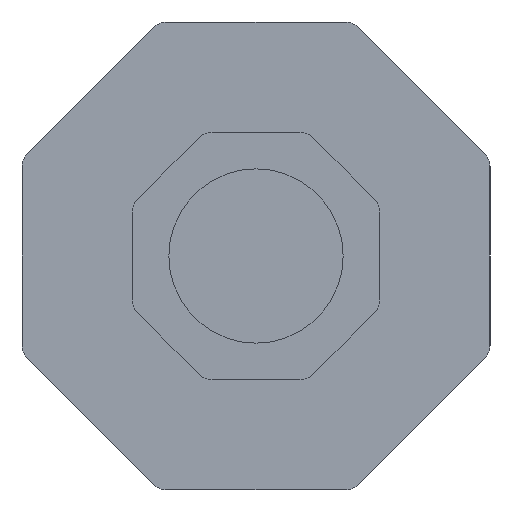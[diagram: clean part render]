
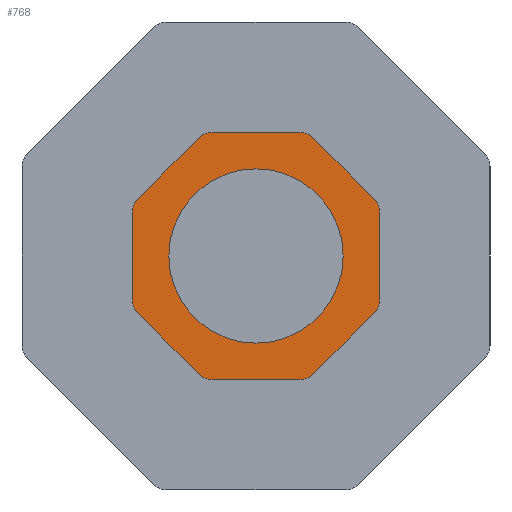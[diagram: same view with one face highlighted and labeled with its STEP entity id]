
A CAD part, left-side view. The second image highlights one B-rep face of the part: STEP entity #768.
In plain terms, the highlighted planar face has unit normal (-1, 0, 0).
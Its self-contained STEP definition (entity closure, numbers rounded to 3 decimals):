
#768=ADVANCED_FACE('',(#1657,#1659),#1661,.T.);
#1657=FACE_BOUND('',#1658,.T.);
#1658=EDGE_LOOP('',(#2395,#2396,#2397,#2398,#2399,#2400,#2401,#2402,#2403,#2404,
#2405,#2406,#2407,#2408,#2409,#2410));
#1659=FACE_BOUND('',#1660,.T.);
#1660=EDGE_LOOP('',(#2411));
#1661=PLANE('',#1662);
#1662=AXIS2_PLACEMENT_3D('',#1663,#1664,#1665);
#1663=CARTESIAN_POINT('',(3127.41,1368.332,0.));
#1664=DIRECTION('',(-1.,0.,0.));
#1665=DIRECTION('',(0.,0.,1.));
#2395=ORIENTED_EDGE('',*,*,#2803,.F.);
#2396=ORIENTED_EDGE('',*,*,#2808,.T.);
#2397=ORIENTED_EDGE('',*,*,#2809,.F.);
#2398=ORIENTED_EDGE('',*,*,#2810,.T.);
#2399=ORIENTED_EDGE('',*,*,#2811,.F.);
#2400=ORIENTED_EDGE('',*,*,#2812,.T.);
#2401=ORIENTED_EDGE('',*,*,#2813,.F.);
#2402=ORIENTED_EDGE('',*,*,#2814,.T.);
#2403=ORIENTED_EDGE('',*,*,#2815,.F.);
#2404=ORIENTED_EDGE('',*,*,#2816,.T.);
#2405=ORIENTED_EDGE('',*,*,#2817,.F.);
#2406=ORIENTED_EDGE('',*,*,#2818,.T.);
#2407=ORIENTED_EDGE('',*,*,#2819,.F.);
#2408=ORIENTED_EDGE('',*,*,#2820,.T.);
#2409=ORIENTED_EDGE('',*,*,#2821,.F.);
#2410=ORIENTED_EDGE('',*,*,#2806,.T.);
#2411=ORIENTED_EDGE('',*,*,#2822,.T.);
#2803=EDGE_CURVE('',#3294,#3295,#3296,.T.);
#2806=EDGE_CURVE('',#3299,#3295,#3300,.T.);
#2808=EDGE_CURVE('',#3294,#3302,#3303,.T.);
#2809=EDGE_CURVE('',#3304,#3302,#3305,.T.);
#2810=EDGE_CURVE('',#3304,#3306,#3307,.T.);
#2811=EDGE_CURVE('',#3308,#3306,#3309,.T.);
#2812=EDGE_CURVE('',#3308,#3310,#3311,.T.);
#2813=EDGE_CURVE('',#3312,#3310,#3313,.T.);
#2814=EDGE_CURVE('',#3312,#3314,#3315,.T.);
#2815=EDGE_CURVE('',#3316,#3314,#3317,.T.);
#2816=EDGE_CURVE('',#3316,#3318,#3319,.T.);
#2817=EDGE_CURVE('',#3320,#3318,#3321,.T.);
#2818=EDGE_CURVE('',#3320,#3322,#3323,.T.);
#2819=EDGE_CURVE('',#3324,#3322,#3325,.T.);
#2820=EDGE_CURVE('',#3324,#3326,#3327,.T.);
#2821=EDGE_CURVE('',#3299,#3326,#3328,.T.);
#2822=EDGE_CURVE('',#3329,#3329,#3330,.T.);
#3294=VERTEX_POINT('',#4433);
#3295=VERTEX_POINT('',#4434);
#3296=CIRCLE('',#4435,2.);
#3299=VERTEX_POINT('',#4445);
#3300=LINE('',#4446,#4447);
#3302=VERTEX_POINT('',#4452);
#3303=LINE('',#4453,#4454);
#3304=VERTEX_POINT('',#4456);
#3305=CIRCLE('',#4457,2.);
#3306=VERTEX_POINT('',#4461);
#3307=LINE('',#4462,#4463);
#3308=VERTEX_POINT('',#4465);
#3309=CIRCLE('',#4466,2.);
#3310=VERTEX_POINT('',#4470);
#3311=LINE('',#4471,#4472);
#3312=VERTEX_POINT('',#4474);
#3313=CIRCLE('',#4475,2.);
#3314=VERTEX_POINT('',#4479);
#3315=LINE('',#4480,#4481);
#3316=VERTEX_POINT('',#4483);
#3317=CIRCLE('',#4484,2.);
#3318=VERTEX_POINT('',#4488);
#3319=LINE('',#4489,#4490);
#3320=VERTEX_POINT('',#4492);
#3321=CIRCLE('',#4493,2.);
#3322=VERTEX_POINT('',#4497);
#3323=LINE('',#4498,#4499);
#3324=VERTEX_POINT('',#4501);
#3325=CIRCLE('',#4502,2.);
#3326=VERTEX_POINT('',#4506);
#3327=LINE('',#4507,#4508);
#3328=CIRCLE('',#4510,2.);
#3329=VERTEX_POINT('',#4514);
#3330=CIRCLE('',#4515,9.5);
#4433=CARTESIAN_POINT('',(3127.41,1363.569,13.5));
#4434=CARTESIAN_POINT('',(3127.41,1362.155,12.914));
#4435=AXIS2_PLACEMENT_3D('',#4436,#4437,#4438);
#4436=CARTESIAN_POINT('',(3127.41,1363.569,11.5));
#4437=DIRECTION('',(1.,0.,0.));
#4438=DIRECTION('',(0.,0.,1.));
#4445=CARTESIAN_POINT('',(3127.41,1355.418,6.178));
#4446=CARTESIAN_POINT('',(3127.41,1355.418,6.178));
#4447=VECTOR('',#4448,1.);
#4448=DIRECTION('',(0.,0.707,0.707));
#4452=CARTESIAN_POINT('',(3127.41,1373.096,13.5));
#4453=CARTESIAN_POINT('',(3127.41,1363.569,13.5));
#4454=VECTOR('',#4455,1.);
#4455=DIRECTION('',(0.,1.,0.));
#4456=CARTESIAN_POINT('',(3127.41,1374.51,12.914));
#4457=AXIS2_PLACEMENT_3D('',#4458,#4459,#4460);
#4458=CARTESIAN_POINT('',(3127.41,1373.096,11.5));
#4459=DIRECTION('',(1.,0.,0.));
#4460=DIRECTION('',(0.,0.707,0.707));
#4461=CARTESIAN_POINT('',(3127.41,1381.247,6.178));
#4462=CARTESIAN_POINT('',(3127.41,1374.51,12.914));
#4463=VECTOR('',#4464,1.);
#4464=DIRECTION('',(0.,0.707,-0.707));
#4465=CARTESIAN_POINT('',(3127.41,1381.832,4.763));
#4466=AXIS2_PLACEMENT_3D('',#4467,#4468,#4469);
#4467=CARTESIAN_POINT('',(3127.41,1379.832,4.763));
#4468=DIRECTION('',(1.,0.,0.));
#4469=DIRECTION('',(0.,1.,0.));
#4470=CARTESIAN_POINT('',(3127.41,1381.832,-4.763));
#4471=CARTESIAN_POINT('',(3127.41,1381.832,4.763));
#4472=VECTOR('',#4473,1.);
#4473=DIRECTION('',(0.,0.,-1.));
#4474=CARTESIAN_POINT('',(3127.41,1381.247,-6.178));
#4475=AXIS2_PLACEMENT_3D('',#4476,#4477,#4478);
#4476=CARTESIAN_POINT('',(3127.41,1379.832,-4.763));
#4477=DIRECTION('',(1.,0.,0.));
#4478=DIRECTION('',(0.,0.707,-0.707));
#4479=CARTESIAN_POINT('',(3127.41,1374.51,-12.914));
#4480=CARTESIAN_POINT('',(3127.41,1381.247,-6.178));
#4481=VECTOR('',#4482,1.);
#4482=DIRECTION('',(0.,-0.707,-0.707));
#4483=CARTESIAN_POINT('',(3127.41,1373.096,-13.5));
#4484=AXIS2_PLACEMENT_3D('',#4485,#4486,#4487);
#4485=CARTESIAN_POINT('',(3127.41,1373.096,-11.5));
#4486=DIRECTION('',(1.,0.,0.));
#4487=DIRECTION('',(0.,0.,-1.));
#4488=CARTESIAN_POINT('',(3127.41,1363.569,-13.5));
#4489=CARTESIAN_POINT('',(3127.41,1373.096,-13.5));
#4490=VECTOR('',#4491,1.);
#4491=DIRECTION('',(0.,-1.,0.));
#4492=CARTESIAN_POINT('',(3127.41,1362.155,-12.914));
#4493=AXIS2_PLACEMENT_3D('',#4494,#4495,#4496);
#4494=CARTESIAN_POINT('',(3127.41,1363.569,-11.5));
#4495=DIRECTION('',(1.,0.,0.));
#4496=DIRECTION('',(0.,-0.707,-0.707));
#4497=CARTESIAN_POINT('',(3127.41,1355.418,-6.178));
#4498=CARTESIAN_POINT('',(3127.41,1362.155,-12.914));
#4499=VECTOR('',#4500,1.);
#4500=DIRECTION('',(0.,-0.707,0.707));
#4501=CARTESIAN_POINT('',(3127.41,1354.832,-4.763));
#4502=AXIS2_PLACEMENT_3D('',#4503,#4504,#4505);
#4503=CARTESIAN_POINT('',(3127.41,1356.832,-4.763));
#4504=DIRECTION('',(1.,0.,0.));
#4505=DIRECTION('',(0.,-1.,0.));
#4506=CARTESIAN_POINT('',(3127.41,1354.832,4.763));
#4507=CARTESIAN_POINT('',(3127.41,1354.832,-4.763));
#4508=VECTOR('',#4509,1.);
#4509=DIRECTION('',(0.,0.,1.));
#4510=AXIS2_PLACEMENT_3D('',#4511,#4512,#4513);
#4511=CARTESIAN_POINT('',(3127.41,1356.832,4.763));
#4512=DIRECTION('',(1.,0.,0.));
#4513=DIRECTION('',(0.,-0.707,0.707));
#4514=CARTESIAN_POINT('',(3127.41,1358.832,0.));
#4515=AXIS2_PLACEMENT_3D('',#4516,#4517,#4518);
#4516=CARTESIAN_POINT('',(3127.41,1368.332,0.));
#4517=DIRECTION('',(1.,0.,0.));
#4518=DIRECTION('',(0.,-1.,0.));
